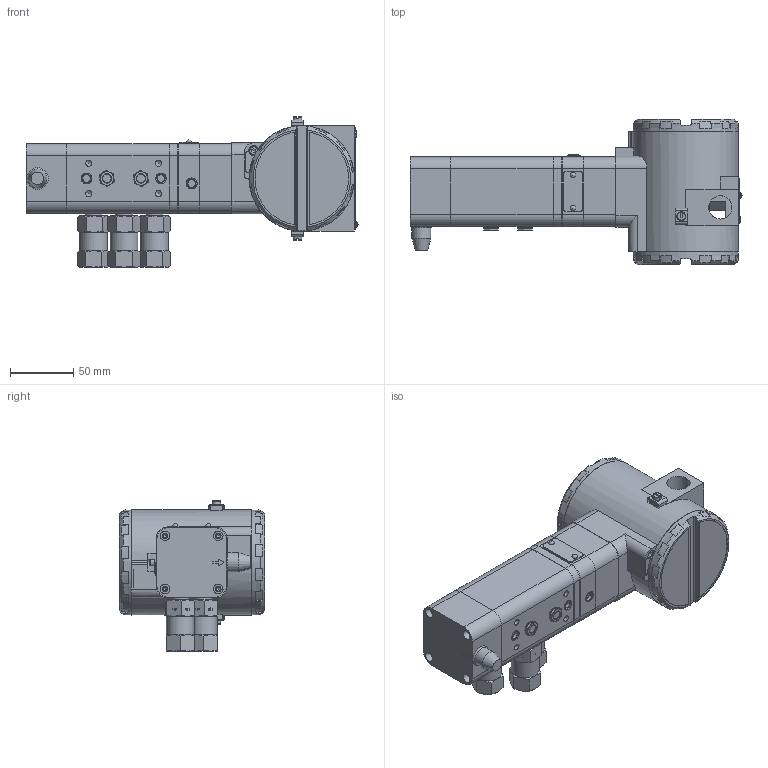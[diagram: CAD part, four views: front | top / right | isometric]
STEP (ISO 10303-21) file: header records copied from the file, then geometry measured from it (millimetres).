
FILE_DESCRIPTION(/* description */ (''),/* implementation_level */ '2;1');
FILE_NAME(/* name */ 'F:\Area\Desenvolvimento_2\Projects\Sensor\projetos\Natasha\Desenho FY\Steps\FY30X_0MAN.stp',/* time_stamp */ '2023-03-02T09:54:48-03:00',/* author */ ('inventor02'),/* organization */ (''),/* preprocessor_version */ 'ST-DEVELOPER v17',/* originating_system */ 'Autodesk Inventor 2019',/* authorisation */ '');
FILE_SCHEMA (('CONFIG_CONTROL_DESIGN'));
Length unit declared in the file: millimetre
Products named in the file (54): Subconjunto FY completo; Subconjunto transdutor; Subconjunto bloco; Bloco usinado; Subconjunto filtro ar 1-4 npt; Conexao traseira 1-4 npt; Elemento filtrante; Conexao frontal 1-4 npt; O-ring da conexao 1-4 npt; Subconjunto vant plug; Vent plug; Filtro vant plug; Subconjunto sealing plugs.0007; Sealing plugs; Sealing plugs sphere; Subconjunto do diafragma; Junta superiror diafragma; arruela superior diafragma; Distanciador uniao diafragma; Junta inferior diafragma; Eixo do diafragma; Intermediaria; Subconjunto base; Base usinada; Restricao; Subconjunto sinterizado; Bucha do sinterizado; Sinterizado retificado; Plaqueta sem texto; Rebite U; DIN 913 - M10 x 10; Subconjunto tampa ligacao; Tampa de ligacao usinada; Subconjunto da Tampa do Hall; Tampa do Hall; Subconjunto transmissor; Subconjunto carcaca transmissor; Carcaca usinada; Chapa aterramento externo; ISO 1207 - M4 x 8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
Assembly tree (68 placements, depth 5):
  Subconjunto FY completo
    Subconjunto transdutor
      Subconjunto bloco
        Bloco usinado
        Subconjunto sinterizado  x2
          Bucha do sinterizado
          Sinterizado retificado
        Subconjunto filtro ar 1-4 npt  x3
          Conexao traseira 1-4 npt
          Elemento filtrante
          Conexao frontal 1-4 npt
          O-ring da conexao 1-4 npt
        Subconjunto vant plug  x2
          Vent plug
          Filtro vant plug
        Subconjunto sealing plugs.0007  x2
          Sealing plugs
          Sealing plugs sphere
        DIN 913 - M10 x 10  x2
      Subconjunto do diafragma
        Junta superiror diafragma
        arruela superior diafragma
        Distanciador uniao diafragma
        Junta inferior diafragma
        Eixo do diafragma
        Intermediaria
      Subconjunto base
        Base usinada
        Restricao
        Subconjunto sinterizado  x2
          Bucha do sinterizado
          Sinterizado retificado
        Plaqueta sem texto
        Rebite U  x2
        DIN 913 - M10 x 10
      Subconjunto tampa ligacao
        Tampa de ligacao usinada
      Subconjunto da Tampa do Hall
        Tampa do Hall
    Subconjunto transmissor
      Subconjunto carcaca transmissor
        Carcaca usinada
        Chapa aterramento externo  x2
        ISO 1207 - M4 x 8  x2
        Tampao Z-S  x2
      Subconjunto tampa com visor
        Tampa macho com visor
        VIDRO DO VISOR
        Trava do vidro da tampa com visor
      Subconjunto tampa sem visor
        Tampa macho sem visor_2
      Subconjunto display
      DIN 912 - M4 x 8  x2
      DIN 912 - M4 x 6
      DIN 84 - M3 x 4
      Rebite da Plaqueta
      Subconjunto plaqueta
        Plaqueta transmissor
        Rebite da Plaqueta
Bounding box: 261.91 x 114.5 x 118.65 mm (x, y, z)
Volume: 777250.4 mm3; surface area: 295486.9 mm2
Topology: 63 solids, 63 shells, 1604 faces, 4355 edges, 3009 vertices
Faces by surface type: plane 736, cylinder 486, cone 230, torus 97, bspline 37, sphere 18
Full cylindrical faces by diameter (mm): 1.3 x1, 2 x2, 2.1 x5, 2.11 x2, 2.459 x5, 2.5 x4, 2.54 x4, 2.7 x4, 2.729 x1, 2.8 x2, 3 x3, 3.1 x1, 3.2 x24, 3.242 x16, 3.5 x3, 3.57 x2, 3.6 x1, 3.65 x1, 3.8 x1, 4 x16, 4.2 x1, 4.3 x18, 4.4 x2, 4.5 x9, 4.917 x4, 5.2 x2, 5.3 x4, 5.5 x4, 5.9 x3, 6.3 x4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
Entity records: 45309 total; most frequent: CARTESIAN_POINT 9847, DIRECTION 7574, ORIENTED_EDGE 6794, EDGE_CURVE 3397, AXIS2_PLACEMENT_3D 3078, VERTEX_POINT 2389, CIRCLE 1686, EDGE_LOOP 1602
